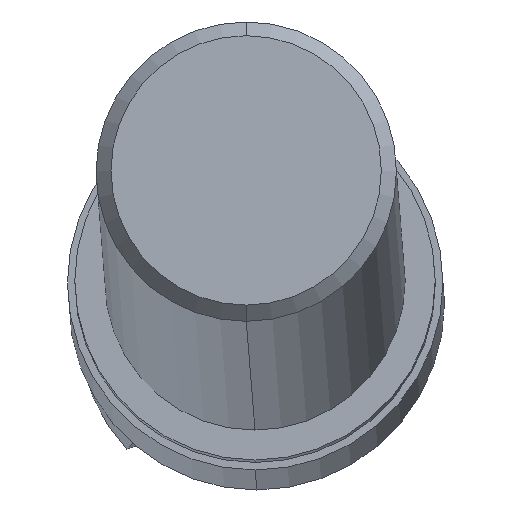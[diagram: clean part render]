
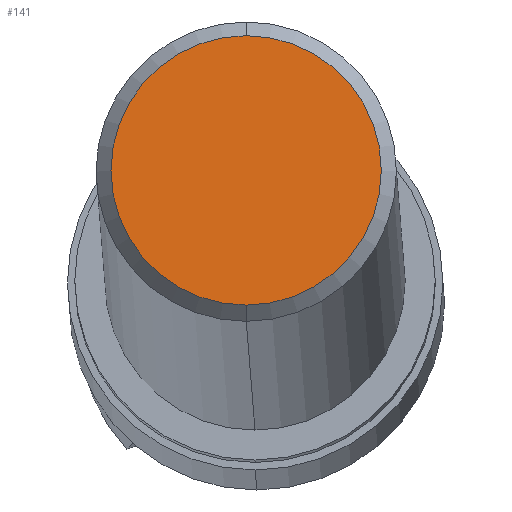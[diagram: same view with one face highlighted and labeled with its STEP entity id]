
A CAD part, left-side view. The second image highlights one B-rep face of the part: STEP entity #141.
In plain terms, the highlighted planar face has unit normal (-0.997, 0.007, 0.083).
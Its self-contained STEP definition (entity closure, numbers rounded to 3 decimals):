
#21 = DIRECTION ( 'NONE',  ( 0.997, -0.007, -0.083 ) ) ;
#27 = AXIS2_PLACEMENT_3D ( 'NONE', #93, #681, #624 ) ;
#36 = PLANE ( 'NONE',  #27 ) ;
#93 = CARTESIAN_POINT ( 'NONE',  ( -40.165, 28.089, 113.518 ) ) ;
#106 = FACE_OUTER_BOUND ( 'NONE', #454, .T. ) ;
#141 = ADVANCED_FACE ( 'NONE', ( #106 ), #36, .T. ) ;
#198 = DIRECTION ( 'NONE',  ( 0.997, -0.007, -0.083 ) ) ;
#205 = CARTESIAN_POINT ( 'NONE',  ( -39.703, 23.811, 119.395 ) ) ;
#285 = EDGE_CURVE ( 'NONE', #541, #482, #755, .T. ) ;
#454 = EDGE_LOOP ( 'NONE', ( #675, #499 ) ) ;
#470 = DIRECTION ( 'NONE',  ( -0.083, 0., -0.997 ) ) ;
#482 = VERTEX_POINT ( 'NONE', #205 ) ;
#486 = CIRCLE ( 'NONE', #801, 4.5 ) ;
#499 = ORIENTED_EDGE ( 'NONE', *, *, #587, .F. ) ;
#514 = AXIS2_PLACEMENT_3D ( 'NONE', #717, #198, #470 ) ;
#541 = VERTEX_POINT ( 'NONE', #784 ) ;
#560 = DIRECTION ( 'NONE',  ( -0.083, 0., -0.997 ) ) ;
#587 = EDGE_CURVE ( 'NONE', #482, #541, #486, .T. ) ;
#624 = DIRECTION ( 'NONE',  ( 0.083, 0., 0.997 ) ) ;
#675 = ORIENTED_EDGE ( 'NONE', *, *, #285, .F. ) ;
#681 = DIRECTION ( 'NONE',  ( -0.997, 0.007, 0.083 ) ) ;
#717 = CARTESIAN_POINT ( 'NONE',  ( -40.078, 23.811, 114.91 ) ) ;
#734 = CARTESIAN_POINT ( 'NONE',  ( -40.078, 23.811, 114.91 ) ) ;
#755 = CIRCLE ( 'NONE', #514, 4.5 ) ;
#784 = CARTESIAN_POINT ( 'NONE',  ( -40.452, 23.811, 110.426 ) ) ;
#801 = AXIS2_PLACEMENT_3D ( 'NONE', #734, #21, #560 ) ;
